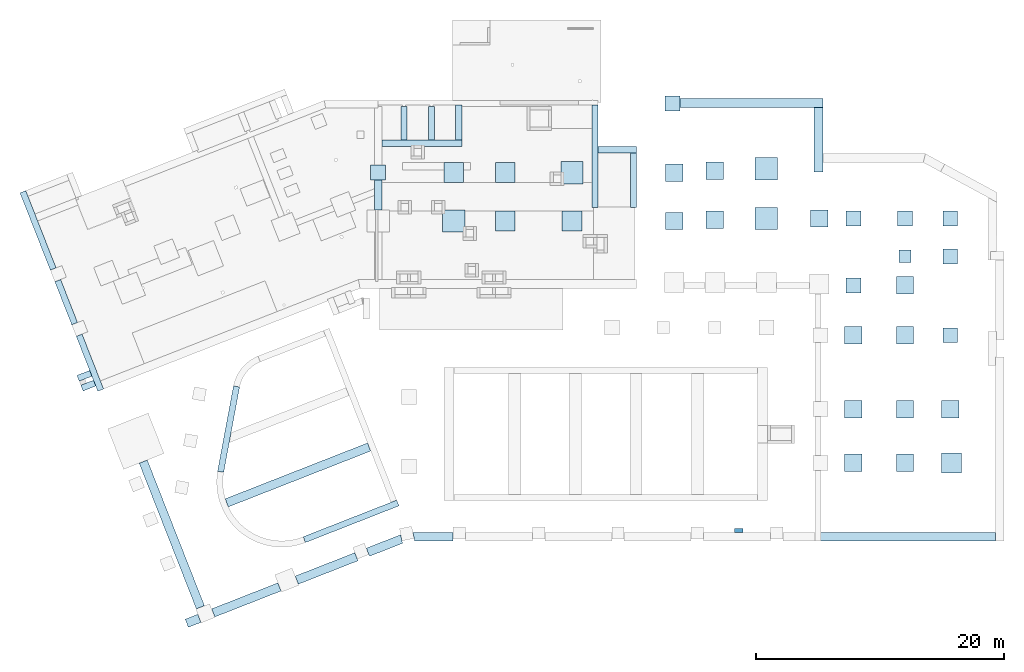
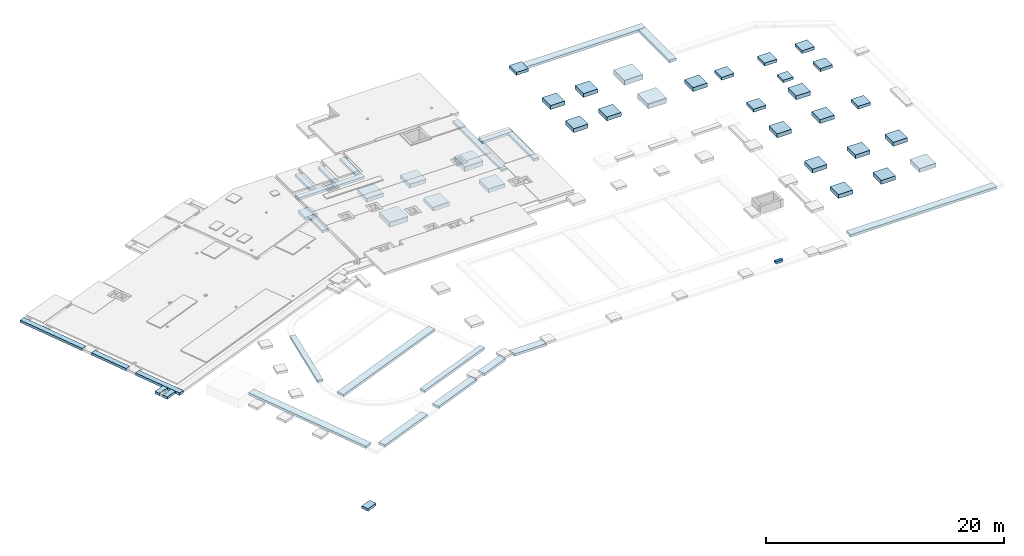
# One storey, part 2 of 9: 57 footings.
"""IFC2X3 building model written with IfcOpenShell, lengths in metres."""

from ifc_helpers import new_model, entity, si_unit, converted_unit, direction, frame, frame_2d, origin, origin_with_axes, place, context, subcontext, project, spatial, rectangle, extrude, faceted_brep, material, element, save


model = new_model("IFC2X3")

# Units and contexts
model_context = context("Model", 3, precision=1e-05, world=origin(), true_north=direction((-0.407059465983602, -0.913401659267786)))
body_context = subcontext(model_context, "Body", "Model", "MODEL_VIEW")
ifc_project = project(units=[si_unit("LENGTHUNIT", "METRE"), si_unit("AREAUNIT", "SQUARE_METRE"), si_unit("VOLUMEUNIT", "CUBIC_METRE"), si_unit("MASSUNIT", "GRAM", prefix="KILO"), converted_unit("PLANEANGLEUNIT", "DEGREE", entity("IfcPlaneAngleMeasure", 0.0174532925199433), si_unit("PLANEANGLEUNIT", "RADIAN"), dimensions=[0, 0, 0, 0, 0, 0, 0])], contexts=[model_context])

# Site, buildings, storey
site_placement = place(None, origin())
site = spatial("IfcSite", under=ifc_project, at=site_placement, Name="Site", CompositionType="ELEMENT")
building_1_placement = place(site_placement, origin())
building_1 = spatial("IfcBuilding", under=site, at=building_1_placement, Name="Site", CompositionType="COMPLEX")
building_2_placement = place(building_1_placement, origin())
building_2 = spatial("IfcBuilding", under=building_1, at=building_2_placement, Name="Bâtiments", CompositionType="ELEMENT")
storey_placement = place(building_2_placement, frame((0.0, 0.0, -7.1)))
storey = spatial("IfcBuildingStorey", under=building_2, at=storey_placement, Name="FONDATIONS", CompositionType="ELEMENT", Elevation=-7.1)

# Footings
ifc_material_1 = material(Name="Béton")
footing_1_placement = place(storey_placement, frame((77.6131068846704, -25.2449283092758, 4.75), z_axis=(0.0, 0.0, 1.0), x_axis=(-1.0, -9.76724846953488e-11, 0.0)))
element("IfcFooting", 1, at=footing_1_placement, inside=storey, material=ifc_material_1, Name="SF006", PredefinedType="STRIP_FOOTING", context=body_context, shape_type="SweptSolid", body=[
    extrude(rectangle(XDim=0.7, YDim=0.25, at=frame_2d((0.35, 0.125), x_axis=(1.0, 0.0))), frame((0.0, 0.0, 0.0), z_axis=(1.0, 0.0, 0.0), x_axis=(0.0, 1.0, 0.0)), (0.0, 0.0, 1.0), 14.1798228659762),
])
ifc_material_2 = material(Name="Béton")
footing_2_placement = place(storey_placement, frame((73.3828326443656, -9.95748199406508, 4.7)))
element("IfcFooting", 2, at=footing_2_placement, inside=storey, material=ifc_material_2, Name="M002-A", PredefinedType="PAD_FOOTING", context=body_context, shape_type="SweptSolid", body=[
    extrude(rectangle(XDim=1.2, YDim=1.2, at=frame_2d((0.6, 0.6), x_axis=(1.0, 0.0))), origin_with_axes(), (0.0, 0.0, 1.0), 0.3),
])
ifc_material_3 = material(Name="Béton")
footing_3_placement = place(storey_placement, frame((73.3828326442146, -3.595492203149, 4.7)))
element("IfcFooting", 3, at=footing_3_placement, inside=storey, material=ifc_material_3, Name="M002-A", PredefinedType="PAD_FOOTING", context=body_context, shape_type="SweptSolid", body=[
    extrude(rectangle(XDim=1.2, YDim=1.2, at=frame_2d((0.6, 0.6), x_axis=(1.0, 0.0))), origin_with_axes(), (0.0, 0.0, 1.0), 0.3),
])
ifc_material_4 = material(Name="Béton")
footing_4_placement = place(storey_placement, frame((73.382151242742, -0.548270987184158, 4.7)))
element("IfcFooting", 4, at=footing_4_placement, inside=storey, material=ifc_material_4, Name="M002-A", PredefinedType="PAD_FOOTING", context=body_context, shape_type="SweptSolid", body=[
    extrude(rectangle(XDim=1.2, YDim=1.2, at=frame_2d((0.6, 0.6), x_axis=(1.0, 0.0))), origin_with_axes(), (0.0, 0.0, 1.0), 0.3),
])
ifc_material_5 = material(Name="Béton")
footing_5_placement = place(storey_placement, frame((58.2629360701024, -0.848270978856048, 4.5)))
element("IfcFooting", 5, at=footing_5_placement, inside=storey, material=ifc_material_5, Name="M004-C", PredefinedType="PAD_FOOTING", context=body_context, shape_type="SweptSolid", body=[
    extrude(rectangle(XDim=1.8, YDim=1.8, at=frame_2d((0.9, 0.9), x_axis=(1.0, 0.0))), origin_with_axes(), (0.0, 0.0, 1.0), 0.5),
])
ifc_material_6 = material(Name="Béton")
footing_6_placement = place(storey_placement, frame((58.2629360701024, 3.15588102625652, 4.5)))
element("IfcFooting", 6, at=footing_6_placement, inside=storey, material=ifc_material_6, Name="M004-C", PredefinedType="PAD_FOOTING", context=body_context, shape_type="SweptSolid", body=[
    extrude(rectangle(XDim=1.8, YDim=1.8, at=frame_2d((0.9, 0.899999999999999), x_axis=(1.0, 0.0))), origin_with_axes(), (0.0, 0.0, 1.0), 0.5),
])
ifc_material_7 = material(Name="Béton")
footing_7_placement = place(storey_placement, frame((51.0385868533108, 3.05381435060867, 4.6)))
element("IfcFooting", 7, at=footing_7_placement, inside=storey, material=ifc_material_7, Name="M007-A", PredefinedType="PAD_FOOTING", context=body_context, shape_type="SweptSolid", body=[
    extrude(rectangle(XDim=1.4, YDim=1.4, at=frame_2d((0.7, 0.7), x_axis=(1.0, 0.0))), origin_with_axes(), (0.0, 0.0, 1.0), 0.4),
])
ifc_material_8 = material(Name="Béton")
footing_8_placement = place(storey_placement, frame((63.7133902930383, 9.71038730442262, 4.75), z_axis=(0.0, 0.0, 1.0), x_axis=(-1.0, -9.76729302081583e-11, 0.0)))
element("IfcFooting", 8, at=footing_8_placement, inside=storey, material=ifc_material_8, Name="SF006", PredefinedType="STRIP_FOOTING", context=body_context, shape_type="SweptSolid", body=[
    extrude(rectangle(XDim=0.7, YDim=0.25, at=frame_2d((0.35, 0.125), x_axis=(1.0, 0.0))), frame((0.0, 0.0, 0.0), z_axis=(1.0, 0.0, 0.0), x_axis=(0.0, 1.0, 0.0)), (0.0, 0.0, 1.0), 11.5207462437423),
])
ifc_material_9 = material(Name="Béton")
footing_9_placement = place(storey_placement, frame((15.5539007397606, -23.1909248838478, 3.36)))
element("IfcFooting", 9, at=footing_9_placement, inside=storey, material=ifc_material_9, Name="SF003-A", PredefinedType="STRIP_FOOTING", context=body_context, shape_type="Brep", body=[
    faceted_brep([(11.7214862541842, 4.5012426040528, 0.0), (11.4658121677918, 5.15287959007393, 0.0), (1.81898940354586e-15, 0.654226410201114, 0.0), (0.0755724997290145, 0.421638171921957, 0.0), (0.164547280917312, 0.189850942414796, 0.0), (0.249074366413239, 0.0, 0.0), (11.4658121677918, 5.15287959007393, 0.25), (11.7214862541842, 4.5012426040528, 0.25), (0.249074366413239, 0.0, 0.25), (0.164547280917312, 0.189850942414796, 0.25), (0.0755724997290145, 0.421638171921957, 0.25), (1.81898940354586e-15, 0.654226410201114, 0.25)], [[[0, 1, 2, 3, 4, 5]], [[6, 7, 8, 9, 10, 11]], [[1, 0, 7, 6]], [[2, 1, 6, 11]], [[3, 2, 11, 10]], [[4, 3, 10, 9]], [[5, 4, 9, 8]], [[0, 5, 8, 7]]], orient=[[False], [False], [False], [False], [False], [False], [False], [False]]),
])
ifc_material_10 = material(Name="Béton")
footing_10_placement = place(storey_placement, frame((14.9314396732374, -20.4097894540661, 3.36)))
element("IfcFooting", 10, at=footing_10_placement, inside=storey, material=ifc_material_10, Name="SF001", PredefinedType="STRIP_FOOTING", context=body_context, shape_type="Brep", body=[
    faceted_brep([(1.77221644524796, 6.87408688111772, 0.0), (1.28195676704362, 6.97154480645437, 0.0), (0.0, 0.0916003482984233, 0.0), (0.492932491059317, 0.00880594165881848, 0.0), (0.491537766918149, 3.63797880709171e-15, 0.0), (1.77372916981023, 6.88120369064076, 0.0), (1.28195676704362, 6.97154480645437, 0.25), (1.77221644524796, 6.87408688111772, 0.25), (1.77372916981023, 6.88120369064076, 0.25), (0.491537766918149, 3.63797880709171e-15, 0.25), (0.492932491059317, 0.00880594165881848, 0.25), (0.0, 0.0916003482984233, 0.25)], [[[0, 1, 2, 3, 4, 5]], [[6, 7, 8, 9, 10, 11]], [[1, 0, 7, 6]], [[2, 1, 6, 11]], [[3, 2, 11, 10]], [[4, 3, 10, 9]], [[5, 4, 9, 8]], [[0, 5, 8, 7]]], orient=[[False], [False], [False], [False], [False], [False], [False], [False]]),
])
ifc_material_11 = material(Name="Béton")
footing_11_placement = place(storey_placement, frame((21.8149450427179, -26.0650997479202, 3.36)))
element("IfcFooting", 11, at=footing_11_placement, inside=storey, material=ifc_material_11, Name="SF001", PredefinedType="STRIP_FOOTING", context=body_context, shape_type="Brep", body=[
    faceted_brep([(7.73164499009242, 2.95572864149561, 0.0), (7.54902064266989, 3.42118363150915, 0.0), (-3.63797880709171e-15, 0.459275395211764, 0.0), (0.0158518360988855, 0.465360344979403, 0.0), (0.198374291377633, 0.0, 0.0), (7.54902064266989, 3.42118363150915, 0.25), (7.73164499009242, 2.95572864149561, 0.25), (0.198374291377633, 0.0, 0.25), (0.0158518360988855, 0.465360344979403, 0.25), (-3.63797880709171e-15, 0.459275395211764, 0.25)], [[[0, 1, 2, 3, 4]], [[5, 6, 7, 8, 9]], [[1, 0, 6, 5]], [[2, 1, 5, 9]], [[3, 2, 9, 8]], [[4, 3, 8, 7]], [[0, 4, 7, 6]]], orient=[[False], [False], [False], [False], [False], [False], [False]]),
])
ifc_material_12 = material(Name="Béton")
footing_12_placement = place(storey_placement, frame((56.5859639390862, -24.9422243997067, 3.95), z_axis=(0.0, 0.0, 1.0), x_axis=(9.60280032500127e-11, -1.0, 0.0)))
element("IfcFooting", 12, at=footing_12_placement, inside=storey, material=ifc_material_12, Name="SF006", PredefinedType="STRIP_FOOTING", context=body_context, shape_type="SweptSolid", body=[
    extrude(rectangle(XDim=0.7, YDim=0.25, at=frame_2d((0.35, 0.125), x_axis=(1.0, 0.0))), frame((0.0, 0.0, 0.0), z_axis=(1.0, 0.0, 0.0), x_axis=(0.0, 1.0, 0.0)), (0.0, 0.0, 1.0), 0.302697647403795),
])
ifc_material_13 = material(Name="Béton")
footing_13_placement = place(storey_placement, frame((30.6738185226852, -25.9449220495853, 3.95)))
element("IfcFooting", 13, at=footing_13_placement, inside=storey, material=ifc_material_13, Name="SF006", PredefinedType="STRIP_FOOTING", context=body_context, shape_type="Brep", body=[
    faceted_brep([(3.23462277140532, 2.96866346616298e-10, 0.0), (3.23462277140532, 0.700000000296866, 0.0), (0.0, 0.699999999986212, 0.0), (0.143550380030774, 0.0, 0.0), (3.23462277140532, 0.700000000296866, 0.25), (3.23462277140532, 2.96866346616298e-10, 0.25), (0.143550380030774, 0.0, 0.25), (0.0, 0.699999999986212, 0.25)], [[[0, 1, 2, 3]], [[4, 5, 6, 7]], [[1, 0, 5, 4]], [[2, 1, 4, 7]], [[3, 2, 7, 6]], [[0, 3, 6, 5]]], orient=[[False], [False], [False], [False], [False], [False]]),
])
ifc_material_14 = material(Name="Béton")
footing_14_placement = place(storey_placement, frame((26.9213104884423, -27.1699077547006, 3.95)))
element("IfcFooting", 14, at=footing_14_placement, inside=storey, material=ifc_material_14, Name="SF006", PredefinedType="STRIP_FOOTING", context=body_context, shape_type="Brep", body=[
    faceted_brep([(2.9126722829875, 1.04249083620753, 0.0), (2.76995143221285, 1.73844577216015, 0.0), (0.0, 0.651636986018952, 0.0), (0.255674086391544, 0.0, 0.0), (2.76995143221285, 1.73844577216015, 0.25), (2.9126722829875, 1.04249083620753, 0.25), (0.255674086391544, 0.0, 0.25), (0.0, 0.651636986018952, 0.25)], [[[0, 1, 2, 3]], [[4, 5, 6, 7]], [[1, 0, 5, 4]], [[2, 1, 4, 7]], [[3, 2, 7, 6]], [[0, 3, 6, 5]]], orient=[[False], [False], [False], [False], [False], [False]]),
])
ifc_material_15 = material(Name="Béton")
footing_15_placement = place(storey_placement, frame((21.1893480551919, -29.4188818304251, 3.95)))
element("IfcFooting", 15, at=footing_15_placement, inside=storey, material=ifc_material_15, Name="SF006", PredefinedType="STRIP_FOOTING", context=body_context, shape_type="Brep", body=[
    faceted_brep([(5.05672653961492, 1.8837253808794, 0.0), (4.80105245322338, 2.53536236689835, 0.0), (0.0, 0.651637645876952, 0.0), (0.255672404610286, -3.63797880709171e-15, 0.0), (4.80105245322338, 2.53536236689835, 0.25), (5.05672653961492, 1.8837253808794, 0.25), (0.255672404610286, -3.63797880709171e-15, 0.25), (0.0, 0.651637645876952, 0.25)], [[[0, 1, 2, 3]], [[4, 5, 6, 7]], [[1, 0, 5, 4]], [[2, 1, 4, 7]], [[3, 2, 7, 6]], [[0, 3, 6, 5]]], orient=[[False], [False], [False], [False], [False], [False]]),
])
ifc_material_16 = material(Name="Béton")
footing_16_placement = place(storey_placement, frame((14.454963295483, -32.0611622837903, 3.95)))
element("IfcFooting", 16, at=footing_16_placement, inside=storey, material=ifc_material_16, Name="SF006", PredefinedType="STRIP_FOOTING", context=body_context, shape_type="Brep", body=[
    faceted_brep([(5.59369219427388, 2.09440741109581, 0.0), (5.33801978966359, 2.74604505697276, 0.0), (-1.81898940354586e-15, 0.651637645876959, 0.0), (0.255672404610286, 0.0, 0.0), (5.33801978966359, 2.74604505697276, 0.25), (5.59369219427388, 2.09440741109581, 0.25), (0.255672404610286, 0.0, 0.25), (-1.81898940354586e-15, 0.651637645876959, 0.25)], [[[0, 1, 2, 3]], [[4, 5, 6, 7]], [[1, 0, 5, 4]], [[2, 1, 4, 7]], [[3, 2, 7, 6]], [[0, 3, 6, 5]]], orient=[[False], [False], [False], [False], [False], [False]]),
])
ifc_material_17 = material(Name="Béton")
footing_17_placement = place(storey_placement, frame((8.61426687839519, -31.4106499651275, 3.95)))
element("IfcFooting", 17, at=footing_17_placement, inside=storey, material=ifc_material_17, Name="SF006", PredefinedType="STRIP_FOOTING", context=body_context, shape_type="Brep", body=[
    faceted_brep([(4.60578715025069, 3.63797880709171e-15, 0.0), (5.25742479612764, 0.25567240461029, 0.0), (0.651636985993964, 11.9944517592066, 0.0), (0.0, 11.7387776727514, 0.0), (5.25742479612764, 0.25567240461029, 0.25), (4.60578715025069, 3.63797880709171e-15, 0.25), (0.0, 11.7387776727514, 0.25), (0.651636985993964, 11.9944517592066, 0.25)], [[[0, 1, 2, 3]], [[4, 5, 6, 7]], [[1, 0, 5, 4]], [[2, 1, 4, 7]], [[3, 2, 7, 6]], [[0, 3, 6, 5]]], orient=[[False], [False], [False], [False], [False], [False]]),
])
ifc_material_18 = material(Name="Béton")
footing_18_placement = place(storey_placement, frame((50.9926440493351, 8.71038730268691, 4.7)))
element("IfcFooting", 18, at=footing_18_placement, inside=storey, material=ifc_material_18, Name="M002-A", PredefinedType="PAD_FOOTING", context=body_context, shape_type="SweptSolid", body=[
    extrude(rectangle(XDim=1.2, YDim=1.2, at=frame_2d((0.6, -0.6), x_axis=(0.0, -1.0))), frame((0.0, 1.2, 0.0), z_axis=(0.0, 0.0, 1.0), x_axis=(1.0, 0.0, 0.0)), (0.0, 0.0, 1.0), 0.3),
])
ifc_material_19 = material(Name="Béton")
footing_19_placement = place(storey_placement, frame((51.0385891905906, -0.848270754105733, 4.6)))
element("IfcFooting", 19, at=footing_19_placement, inside=storey, material=ifc_material_19, Name="M007-A", PredefinedType="PAD_FOOTING", context=body_context, shape_type="SweptSolid", body=[
    extrude(rectangle(XDim=1.4, YDim=1.4, at=frame_2d((0.7, 0.7), x_axis=(1.0, 0.0))), origin_with_axes(), (0.0, 0.0, 1.0), 0.4),
])
ifc_material_20 = material(Name="Béton")
footing_20_placement = place(storey_placement, frame((54.3124755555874, 3.20173145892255, 4.6)))
element("IfcFooting", 20, at=footing_20_placement, inside=storey, material=ifc_material_20, Name="M007-B", PredefinedType="PAD_FOOTING", context=body_context, shape_type="SweptSolid", body=[
    extrude(rectangle(XDim=1.4, YDim=1.4, at=frame_2d((0.7, 0.7), x_axis=(1.0, 0.0))), origin_with_axes(), (0.0, 0.0, 1.0), 0.4),
])
ifc_material_21 = material(Name="Béton")
footing_21_placement = place(storey_placement, frame((54.3124767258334, -0.748268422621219, 4.6)))
element("IfcFooting", 21, at=footing_21_placement, inside=storey, material=ifc_material_21, Name="M007-C", PredefinedType="PAD_FOOTING", context=body_context, shape_type="SweptSolid", body=[
    extrude(rectangle(XDim=1.4, YDim=1.4, at=frame_2d((0.7, 0.7), x_axis=(1.0, 0.0))), origin_with_axes(), (0.0, 0.0, 1.0), 0.4),
])
ifc_material_22 = material(Name="Béton")
footing_22_placement = place(storey_placement, frame((62.7233901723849, -0.648221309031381, 4.6)))
element("IfcFooting", 22, at=footing_22_placement, inside=storey, material=ifc_material_22, Name="M007-D", PredefinedType="PAD_FOOTING", context=body_context, shape_type="SweptSolid", body=[
    extrude(rectangle(XDim=1.4, YDim=1.4, at=frame_2d((0.7, 0.7), x_axis=(1.0, 0.0))), origin_with_axes(), (0.0, 0.0, 1.0), 0.4),
])
ifc_material_23 = material(Name="Béton")
footing_23_placement = place(storey_placement, frame((65.5729452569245, -0.548273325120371, 4.7)))
element("IfcFooting", 23, at=footing_23_placement, inside=storey, material=ifc_material_23, Name="M002-A", PredefinedType="PAD_FOOTING", context=body_context, shape_type="SweptSolid", body=[
    extrude(rectangle(XDim=1.2, YDim=1.2, at=frame_2d((0.6, 0.6), x_axis=(1.0, 0.0))), origin_with_axes(), (0.0, 0.0, 1.0), 0.3),
])
ifc_material_24 = material(Name="Béton")
footing_24_placement = place(storey_placement, frame((69.7328311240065, -0.548178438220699, 4.7)))
element("IfcFooting", 24, at=footing_24_placement, inside=storey, material=ifc_material_24, Name="M002-A", PredefinedType="PAD_FOOTING", context=body_context, shape_type="SweptSolid", body=[
    extrude(rectangle(XDim=1.2, YDim=1.2, at=frame_2d((0.6, 0.6), x_axis=(1.0, 0.0))), origin_with_axes(), (0.0, 0.0, 1.0), 0.3),
])
ifc_material_25 = material(Name="Béton")
footing_25_placement = place(storey_placement, frame((65.5729491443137, -5.93902728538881, 4.7)))
element("IfcFooting", 25, at=footing_25_placement, inside=storey, material=ifc_material_25, Name="M002-A", PredefinedType="PAD_FOOTING", context=body_context, shape_type="SweptSolid", body=[
    extrude(rectangle(XDim=1.2, YDim=1.2, at=frame_2d((0.6, 0.6), x_axis=(1.0, 0.0))), origin_with_axes(), (0.0, 0.0, 1.0), 0.3),
])
ifc_material_26 = material(Name="Béton")
footing_26_placement = place(storey_placement, frame((69.8328311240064, -3.49565614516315, 4.75)))
element("IfcFooting", 26, at=footing_26_placement, inside=storey, material=ifc_material_26, Name="M001-D", PredefinedType="PAD_FOOTING", context=body_context, shape_type="SweptSolid", body=[
    extrude(rectangle(XDim=1.0, YDim=1.0, at=frame_2d((0.5, 0.5), x_axis=(1.0, 0.0))), origin_with_axes(), (0.0, 0.0, 1.0), 0.25),
])
ifc_material_27 = material(Name="Béton")
footing_27_placement = place(storey_placement, frame((69.6328983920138, -6.03898456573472, 4.6)))
element("IfcFooting", 27, at=footing_27_placement, inside=storey, material=ifc_material_27, Name="M007-E", PredefinedType="PAD_FOOTING", context=body_context, shape_type="SweptSolid", body=[
    extrude(rectangle(XDim=1.4, YDim=1.4, at=frame_2d((0.7, 0.7), x_axis=(1.0, 0.0))), origin_with_axes(), (0.0, 0.0, 1.0), 0.4),
])
ifc_material_28 = material(Name="Béton")
footing_28_placement = place(storey_placement, frame((65.4728837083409, -10.0574421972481, 4.6)))
element("IfcFooting", 28, at=footing_28_placement, inside=storey, material=ifc_material_28, Name="M007-E", PredefinedType="PAD_FOOTING", context=body_context, shape_type="SweptSolid", body=[
    extrude(rectangle(XDim=1.4, YDim=1.4, at=frame_2d((0.7, 0.7), x_axis=(1.0, 0.0))), origin_with_axes(), (0.0, 0.0, 1.0), 0.4),
])
ifc_material_29 = material(Name="Béton")
footing_29_placement = place(storey_placement, frame((69.6328329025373, -10.057455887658, 4.6)))
element("IfcFooting", 29, at=footing_29_placement, inside=storey, material=ifc_material_29, Name="M007-E", PredefinedType="PAD_FOOTING", context=body_context, shape_type="SweptSolid", body=[
    extrude(rectangle(XDim=1.4, YDim=1.4, at=frame_2d((0.7, 0.7), x_axis=(1.0, 0.0))), origin_with_axes(), (0.0, 0.0, 1.0), 0.4),
])
ifc_material_30 = material(Name="Béton")
footing_30_placement = place(storey_placement, frame((69.632858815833, -16.0132485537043, 4.6)))
element("IfcFooting", 30, at=footing_30_placement, inside=storey, material=ifc_material_30, Name="M007-E", PredefinedType="PAD_FOOTING", context=body_context, shape_type="SweptSolid", body=[
    extrude(rectangle(XDim=1.4, YDim=1.4, at=frame_2d((0.7, 0.7), x_axis=(1.0, 0.0))), origin_with_axes(), (0.0, 0.0, 1.0), 0.4),
])
ifc_material_31 = material(Name="Béton")
footing_31_placement = place(storey_placement, frame((73.292830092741, -16.0132294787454, 4.6)))
element("IfcFooting", 31, at=footing_31_placement, inside=storey, material=ifc_material_31, Name="M007-E", PredefinedType="PAD_FOOTING", context=body_context, shape_type="SweptSolid", body=[
    extrude(rectangle(XDim=1.4, YDim=1.4, at=frame_2d((0.7, 0.7), x_axis=(1.0, 0.0))), origin_with_axes(), (0.0, 0.0, 1.0), 0.4),
])
ifc_material_32 = material(Name="Béton")
footing_32_placement = place(storey_placement, frame((65.4729473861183, -16.0132858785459, 4.6)))
element("IfcFooting", 32, at=footing_32_placement, inside=storey, material=ifc_material_32, Name="M007-E", PredefinedType="PAD_FOOTING", context=body_context, shape_type="SweptSolid", body=[
    extrude(rectangle(XDim=1.4, YDim=1.4, at=frame_2d((0.7, 0.7), x_axis=(1.0, 0.0))), origin_with_axes(), (0.0, 0.0, 1.0), 0.4),
])
ifc_material_33 = material(Name="Béton")
footing_33_placement = place(storey_placement, frame((69.6328588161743, -20.3399960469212, 4.6)))
element("IfcFooting", 33, at=footing_33_placement, inside=storey, material=ifc_material_33, Name="M007-E", PredefinedType="PAD_FOOTING", context=body_context, shape_type="SweptSolid", body=[
    extrude(rectangle(XDim=1.4, YDim=1.4, at=frame_2d((0.7, 0.7), x_axis=(1.0, 0.0))), origin_with_axes(), (0.0, 0.0, 1.0), 0.4),
])
ifc_material_34 = material(Name="Béton")
footing_34_placement = place(storey_placement, frame((65.4729473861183, -20.3400479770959, 4.6)))
element("IfcFooting", 34, at=footing_34_placement, inside=storey, material=ifc_material_34, Name="M007-E", PredefinedType="PAD_FOOTING", context=body_context, shape_type="SweptSolid", body=[
    extrude(rectangle(XDim=1.4, YDim=1.4, at=frame_2d((0.7, 0.7), x_axis=(1.0, 0.0))), origin_with_axes(), (0.0, 0.0, 1.0), 0.4),
])
ifc_material_35 = material(Name="Béton")
footing_35_placement = place(storey_placement, frame((73.2928658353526, -20.4399943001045, 4.6)))
element("IfcFooting", 35, at=footing_35_placement, inside=storey, material=ifc_material_35, Name="M003-B", PredefinedType="PAD_FOOTING", context=body_context, shape_type="SweptSolid", body=[
    extrude(rectangle(XDim=1.6, YDim=1.6, at=frame_2d((0.8, 0.8), x_axis=(1.0, 0.0))), origin_with_axes(), (0.0, 0.0, 1.0), 0.4),
])
ifc_material_36 = material(Name="Béton")
footing_36_placement = place(storey_placement, frame((34.6180907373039, 6.36706783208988, 1.55), z_axis=(0.0, 0.0, 1.0), x_axis=(0.0, 1.0, 0.0)))
element("IfcFooting", 36, at=footing_36_placement, inside=storey, material=ifc_material_36, Name="SF001", PredefinedType="STRIP_FOOTING", context=body_context, shape_type="SweptSolid", body=[
    extrude(rectangle(XDim=0.5, YDim=0.25, at=frame_2d((0.25, 0.125), x_axis=(1.0, 0.0))), frame((0.0, 0.0, 0.0), z_axis=(1.0, 0.0, 0.0), x_axis=(0.0, 1.0, 0.0)), (0.0, 0.0, 1.0), 2.84331947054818),
])
ifc_material_37 = material(Name="Béton")
footing_37_placement = place(storey_placement, frame((30.2173360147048, 6.36706783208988, 1.55), z_axis=(0.0, 0.0, 1.0), x_axis=(0.0, 1.0, 0.0)))
element("IfcFooting", 37, at=footing_37_placement, inside=storey, material=ifc_material_37, Name="SF001", PredefinedType="STRIP_FOOTING", context=body_context, shape_type="SweptSolid", body=[
    extrude(rectangle(XDim=0.5, YDim=0.25, at=frame_2d((0.25, 0.125), x_axis=(1.0, 0.0))), frame((0.0, 0.0, 0.0), z_axis=(1.0, 0.0, 0.0), x_axis=(0.0, 1.0, 0.0)), (0.0, 0.0, 1.0), 2.69331947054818),
])
ifc_material_38 = material(Name="Béton")
footing_38_placement = place(storey_placement, frame((32.4188387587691, 6.36706783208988, 1.55), z_axis=(0.0, 0.0, 1.0), x_axis=(0.0, 1.0, 0.0)))
element("IfcFooting", 38, at=footing_38_placement, inside=storey, material=ifc_material_38, Name="SF001", PredefinedType="STRIP_FOOTING", context=body_context, shape_type="SweptSolid", body=[
    extrude(rectangle(XDim=0.5, YDim=0.25, at=frame_2d((0.25, 0.125), x_axis=(1.0, 0.0))), frame((0.0, 0.0, 0.0), z_axis=(1.0, 0.0, 0.0), x_axis=(0.0, 1.0, 0.0)), (0.0, 0.0, 1.0), 2.69331947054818),
])
ifc_material_39 = material(Name="Béton")
footing_39_placement = place(storey_placement, frame((45.0926319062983, 9.21038730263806, 1.55), z_axis=(0.0, 0.0, 1.0), x_axis=(-1.76246358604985e-15, -1.0, 0.0)))
element("IfcFooting", 39, at=footing_39_placement, inside=storey, material=ifc_material_39, Name="SF001", PredefinedType="STRIP_FOOTING", context=body_context, shape_type="SweptSolid", body=[
    extrude(rectangle(XDim=0.5, YDim=0.25, at=frame_2d((0.25, 0.125), x_axis=(1.0, 0.0))), frame((0.0, 0.0, 0.0), z_axis=(1.0, 0.0, 0.0), x_axis=(0.0, 1.0, 0.0)), (0.0, 0.0, 1.0), 8.25657638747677),
])
ifc_material_40 = material(Name="Béton")
footing_40_placement = place(storey_placement, frame((12.3210405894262, -32.8984203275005, -1.35)))
element("IfcFooting", 40, at=footing_40_placement, inside=storey, material=ifc_material_40, Name="SF006", PredefinedType="STRIP_FOOTING", context=body_context, shape_type="Brep", body=[
    faceted_brep([(1.27250325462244, 0.398959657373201, 0.0), (1.01683085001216, 1.05059730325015, 0.0), (-1.81898940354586e-15, 0.651636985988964, 0.0), (0.255674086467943, 0.0, 0.0), (1.01683085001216, 1.05059730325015, 0.25), (1.27250325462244, 0.398959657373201, 0.25), (0.255674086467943, 0.0, 0.25), (-1.81898940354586e-15, 0.651636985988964, 0.25)], [[[0, 1, 2, 3]], [[4, 5, 6, 7]], [[1, 0, 5, 4]], [[2, 1, 4, 7]], [[3, 2, 7, 6]], [[0, 3, 6, 5]]], orient=[[False], [False], [False], [False], [False], [False]]),
])
ifc_material_41 = material(Name="Béton")
footing_41_placement = place(storey_placement, frame((48.714696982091, 0.953810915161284, 1.55), z_axis=(0.0, 0.0, 1.0), x_axis=(0.0, 1.0, 0.0)))
element("IfcFooting", 41, at=footing_41_placement, inside=storey, material=ifc_material_41, Name="SF001", PredefinedType="STRIP_FOOTING", context=body_context, shape_type="SweptSolid", body=[
    extrude(rectangle(XDim=0.500000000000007, YDim=0.25, at=frame_2d((0.250000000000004, 0.125), x_axis=(1.0, 0.0))), frame((0.0, 0.0, 0.0), z_axis=(1.0, 0.0, 0.0), x_axis=(0.0, 1.0, 0.0)), (0.0, 0.0, 1.0), 4.39465431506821),
])
ifc_material_42 = material(Name="Béton")
footing_42_placement = place(storey_placement, frame((48.714696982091, 5.84846523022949, 1.55), z_axis=(0.0, 0.0, 1.0), x_axis=(-1.0, 0.0, 0.0)))
element("IfcFooting", 42, at=footing_42_placement, inside=storey, material=ifc_material_42, Name="SF001", PredefinedType="STRIP_FOOTING", context=body_context, shape_type="SweptSolid", body=[
    extrude(rectangle(XDim=0.499999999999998, YDim=0.25, at=frame_2d((0.249999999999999, 0.125), x_axis=(1.0, 0.0))), frame((0.0, 0.0, 0.0), z_axis=(1.0, 0.0, 0.0), x_axis=(0.0, 1.0, 0.0)), (0.0, 0.0, 1.0), 3.12206507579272),
])
ifc_material_43 = material(Name="Béton")
footing_43_placement = place(storey_placement, frame((28.1726463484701, 0.7517366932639, 1.55), z_axis=(0.0, 0.0, 1.0), x_axis=(0.0, 1.0, 0.0)))
element("IfcFooting", 43, at=footing_43_placement, inside=storey, material=ifc_material_43, Name="SF002", PredefinedType="STRIP_FOOTING", context=body_context, shape_type="SweptSolid", body=[
    extrude(rectangle(XDim=0.6, YDim=0.25, at=frame_2d((0.3, 0.125), x_axis=(1.0, 0.0))), frame((0.0, 0.0, 0.0), z_axis=(1.0, 0.0, 0.0), x_axis=(0.0, 1.0, 0.0)), (0.0, 0.0, 1.0), 2.39978088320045),
])
ifc_material_44 = material(Name="Béton")
footing_44_placement = place(storey_placement, frame((-0.992075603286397, -4.11059027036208, 1.55)))
element("IfcFooting", 44, at=footing_44_placement, inside=storey, material=ifc_material_44, Name="SF001", PredefinedType="STRIP_FOOTING", context=body_context, shape_type="Brep", body=[
    faceted_brep([(0.465462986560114, 6.41174323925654, 0.0), (1.13686837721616e-16, 6.22913927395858, 0.0), (2.44372928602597, 0.0, 0.0), (2.9091847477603, 0.182623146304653, 0.0), (1.13686837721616e-16, 6.22913927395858, 0.25), (0.465462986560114, 6.41174323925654, 0.25), (2.9091847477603, 0.182623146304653, 0.25), (2.44372928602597, 0.0, 0.25)], [[[0, 1, 2, 3]], [[4, 5, 6, 7]], [[1, 0, 5, 4]], [[2, 1, 4, 7]], [[3, 2, 7, 6]], [[0, 3, 6, 5]]], orient=[[False], [False], [False], [False], [False], [False]]),
])
ifc_material_45 = material(Name="Béton")
footing_45_placement = place(storey_placement, frame((1.8168616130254, -8.51387011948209, 1.55)))
element("IfcFooting", 45, at=footing_45_placement, inside=storey, material=ifc_material_45, Name="SF001", PredefinedType="STRIP_FOOTING", context=body_context, shape_type="Brep", body=[
    faceted_brep([(0.465462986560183, 3.65495784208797, 0.0), (2.27373675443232e-16, 3.4723538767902, 0.0), (1.36222557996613, 0.0, 0.0), (1.82768104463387, 0.182623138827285, 0.0), (2.27373675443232e-16, 3.4723538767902, 0.25), (0.465462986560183, 3.65495784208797, 0.25), (1.82768104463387, 0.182623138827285, 0.25), (1.36222557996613, 0.0, 0.25)], [[[0, 1, 2, 3]], [[4, 5, 6, 7]], [[1, 0, 5, 4]], [[2, 1, 4, 7]], [[3, 2, 7, 6]], [[0, 3, 6, 5]]], orient=[[False], [False], [False], [False], [False], [False]]),
])
ifc_material_46 = material(Name="Béton")
footing_46_placement = place(storey_placement, frame((3.59883718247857, -13.0601318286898, 1.55)))
element("IfcFooting", 46, at=footing_46_placement, inside=storey, material=ifc_material_46, Name="SF001", PredefinedType="STRIP_FOOTING", context=body_context, shape_type="Brep", body=[
    faceted_brep([(1.20623836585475, 0.40156860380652, 0.0), (1.02363440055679, 0.867031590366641, 0.0), (0.0, 0.465462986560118, 0.0), (0.182603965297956, 0.0, 0.0), (1.02363440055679, 0.867031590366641, 0.25), (1.20623836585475, 0.40156860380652, 0.25), (0.182603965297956, 0.0, 0.25), (0.0, 0.465462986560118, 0.25)], [[[0, 1, 2, 3]], [[4, 5, 6, 7]], [[1, 0, 5, 4]], [[2, 1, 4, 7]], [[3, 2, 7, 6]], [[0, 3, 6, 5]]], orient=[[False], [False], [False], [False], [False], [False]]),
])
ifc_material_47 = material(Name="Béton")
footing_47_placement = place(storey_placement, frame((3.90926470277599, -13.8514208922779, 1.55)))
element("IfcFooting", 47, at=footing_47_placement, inside=storey, material=ifc_material_47, Name="SF001", PredefinedType="STRIP_FOOTING", context=body_context, shape_type="Brep", body=[
    faceted_brep([(1.20623836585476, 0.401568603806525, 0.0), (1.02363440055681, 0.867031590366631, 0.0), (4.54747350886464e-16, 0.465462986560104, 0.0), (0.182603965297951, 0.0, 0.0), (1.02363440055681, 0.867031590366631, 0.25), (1.20623836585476, 0.401568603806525, 0.25), (0.182603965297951, 0.0, 0.25), (4.54747350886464e-16, 0.465462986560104, 0.25)], [[[0, 1, 2, 3]], [[4, 5, 6, 7]], [[1, 0, 5, 4]], [[2, 1, 4, 7]], [[3, 2, 7, 6]], [[0, 3, 6, 5]]], orient=[[False], [False], [False], [False], [False], [False]]),
])
ifc_material_48 = material(Name="Béton")
footing_48_placement = place(storey_placement, frame((3.54429512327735, -13.8702077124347, 1.55)))
element("IfcFooting", 48, at=footing_48_placement, inside=storey, material=ifc_material_48, Name="SF001", PredefinedType="STRIP_FOOTING", context=body_context, shape_type="Brep", body=[
    faceted_brep([(0.465462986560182, 4.60801558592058, 0.0), (4.54747350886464e-16, 4.42541162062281, 0.0), (1.73611593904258, 1.81898940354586e-15, 0.0), (2.20157140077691, 0.182623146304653, 0.0), (4.54747350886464e-16, 4.42541162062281, 0.25), (0.465462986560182, 4.60801558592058, 0.25), (2.20157140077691, 0.182623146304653, 0.25), (1.73611593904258, 1.81898940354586e-15, 0.25)], [[[0, 1, 2, 3]], [[4, 5, 6, 7]], [[1, 0, 5, 4]], [[2, 1, 4, 7]], [[3, 2, 7, 6]], [[0, 3, 6, 5]]], orient=[[False], [False], [False], [False], [False], [False]]),
])
ifc_material_49 = material(Name="Béton")
footing_49_placement = place(storey_placement, frame((34.6180907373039, 6.36706783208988, 1.55), z_axis=(0.0, 0.0, 1.0), x_axis=(-1.0, 2.8221318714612e-16, 0.0)))
element("IfcFooting", 49, at=footing_49_placement, inside=storey, material=ifc_material_49, Name="SF001", PredefinedType="STRIP_FOOTING", context=body_context, shape_type="SweptSolid", body=[
    extrude(rectangle(XDim=0.500000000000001, YDim=0.25, at=frame_2d((0.25, 0.125), x_axis=(1.0, 0.0))), frame((0.0, 0.0, 0.0), z_axis=(1.0, 0.0, 0.0), x_axis=(0.0, 1.0, 0.0)), (0.0, 0.0, 1.0), 6.44544438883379),
])
ifc_material_50 = material(Name="Béton")
footing_50_placement = place(storey_placement, frame((27.2724784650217, 3.15151757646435, 1.5)))
element("IfcFooting", 50, at=footing_50_placement, inside=storey, material=ifc_material_50, Name="M002-B", PredefinedType="PAD_FOOTING", context=body_context, shape_type="SweptSolid", body=[
    extrude(rectangle(XDim=1.2, YDim=1.2, at=frame_2d((0.6, 0.6), x_axis=(1.0, 0.0))), origin_with_axes(), (0.0, 0.0, 1.0), 0.3),
])
ifc_material_51 = material(Name="Béton")
footing_51_placement = place(storey_placement, frame((33.0627983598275, -1.04827076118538, 1.3)))
element("IfcFooting", 51, at=footing_51_placement, inside=storey, material=ifc_material_51, Name="M004-B", PredefinedType="PAD_FOOTING", context=body_context, shape_type="SweptSolid", body=[
    extrude(rectangle(XDim=1.8, YDim=1.8, at=frame_2d((0.9, 0.9), x_axis=(1.0, 0.0))), origin_with_axes(), (0.0, 0.0, 1.0), 0.5),
])
ifc_material_52 = material(Name="Béton")
footing_52_placement = place(storey_placement, frame((42.5923208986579, 2.85172912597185, 1.3)))
element("IfcFooting", 52, at=footing_52_placement, inside=storey, material=ifc_material_52, Name="M004-B", PredefinedType="PAD_FOOTING", context=body_context, shape_type="SweptSolid", body=[
    extrude(rectangle(XDim=1.8, YDim=1.8, at=frame_2d((0.9, 0.9), x_axis=(1.0, 0.0))), origin_with_axes(), (0.0, 0.0, 1.0), 0.5),
])
ifc_material_53 = material(Name="Béton")
footing_53_placement = place(storey_placement, frame((33.1627983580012, 2.95172934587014, 1.4)))
element("IfcFooting", 53, at=footing_53_placement, inside=storey, material=ifc_material_53, Name="M003-A", PredefinedType="PAD_FOOTING", context=body_context, shape_type="SweptSolid", body=[
    extrude(rectangle(XDim=1.6, YDim=1.6, at=frame_2d((0.8, 0.800000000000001), x_axis=(1.0, 0.0))), origin_with_axes(), (0.0, 0.0, 1.0), 0.4),
])
ifc_material_54 = material(Name="Béton")
footing_54_placement = place(storey_placement, frame((42.6924504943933, -0.948275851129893, 1.4)))
element("IfcFooting", 54, at=footing_54_placement, inside=storey, material=ifc_material_54, Name="M003-A", PredefinedType="PAD_FOOTING", context=body_context, shape_type="SweptSolid", body=[
    extrude(rectangle(XDim=1.6, YDim=1.6, at=frame_2d((0.8, 0.800000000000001), x_axis=(1.0, 0.0))), origin_with_axes(), (0.0, 0.0, 1.0), 0.4),
])
ifc_material_55 = material(Name="Béton")
footing_55_placement = place(storey_placement, frame((37.3184656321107, -0.948275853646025, 1.4)))
element("IfcFooting", 55, at=footing_55_placement, inside=storey, material=ifc_material_55, Name="M003-A", PredefinedType="PAD_FOOTING", context=body_context, shape_type="SweptSolid", body=[
    extrude(rectangle(XDim=1.6, YDim=1.6, at=frame_2d((0.8, 0.800000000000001), x_axis=(1.0, 0.0))), origin_with_axes(), (0.0, 0.0, 1.0), 0.4),
])
ifc_material_56 = material(Name="Béton")
footing_56_placement = place(storey_placement, frame((37.3184622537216, 2.95172912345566, 1.4)))
element("IfcFooting", 56, at=footing_56_placement, inside=storey, material=ifc_material_56, Name="M003-A", PredefinedType="PAD_FOOTING", context=body_context, shape_type="SweptSolid", body=[
    extrude(rectangle(XDim=1.6, YDim=1.6, at=frame_2d((0.8, 0.800000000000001), x_axis=(1.0, 0.0))), origin_with_axes(), (0.0, 0.0, 1.0), 0.4),
])
ifc_material_57 = material(Name="Béton")
footing_57_placement = place(storey_placement, frame((63.7133902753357, 3.80588101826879, 4.75), z_axis=(0.0, 0.0, 1.0), x_axis=(2.99814806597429e-09, 1.0, 0.0)))
element("IfcFooting", 57, at=footing_57_placement, inside=storey, material=ifc_material_57, Name="SF006", PredefinedType="STRIP_FOOTING", context=body_context, shape_type="SweptSolid", body=[
    extrude(rectangle(XDim=0.7, YDim=0.25, at=frame_2d((0.35, 0.125), x_axis=(1.0, 0.0))), frame((0.0, 0.0, 0.0), z_axis=(1.0, 0.0, 0.0), x_axis=(0.0, 1.0, 0.0)), (0.0, 0.0, 1.0), 5.20450628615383),
])

save(model, "model.ifc")
